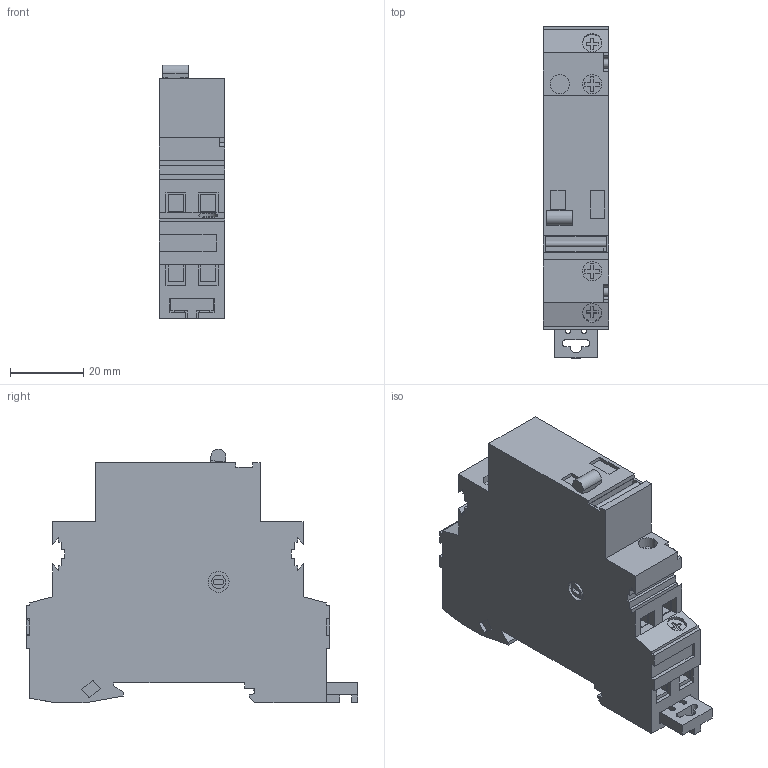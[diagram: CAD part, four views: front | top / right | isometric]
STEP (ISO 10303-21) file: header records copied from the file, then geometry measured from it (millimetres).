
FILE_DESCRIPTION((''),'2;1');
FILE_NAME('B108805','2013-07-03T',('SESA231906'),('Schneider-Electric'),'PRO/ENGINEER BY PARAMETRIC TECHNOLOGY CORPORATION, 2011410','PRO/ENGINEER BY PARAMETRIC TECHNOLOGY CORPORATION, 2011410','');
FILE_SCHEMA(('CONFIG_CONTROL_DESIGN'));
Length unit declared in the file: millimetre
Products named in the file (1): B108805
Bounding box: 17.8 x 90.47 x 69.23 mm (x, y, z)
Volume: 73009.2 mm3; surface area: 17234 mm2
Topology: 1 solids, 1 shells, 409 faces, 1113 edges, 735 vertices
Faces by surface type: plane 350, cylinder 59
Entity records: 12784 total; most frequent: CARTESIAN_POINT 2270, ORIENTED_EDGE 2226, DIRECTION 2048, EDGE_CURVE 1113, VECTOR 990, LINE 990, VERTEX_POINT 735, AXIS2_PLACEMENT_3D 529
